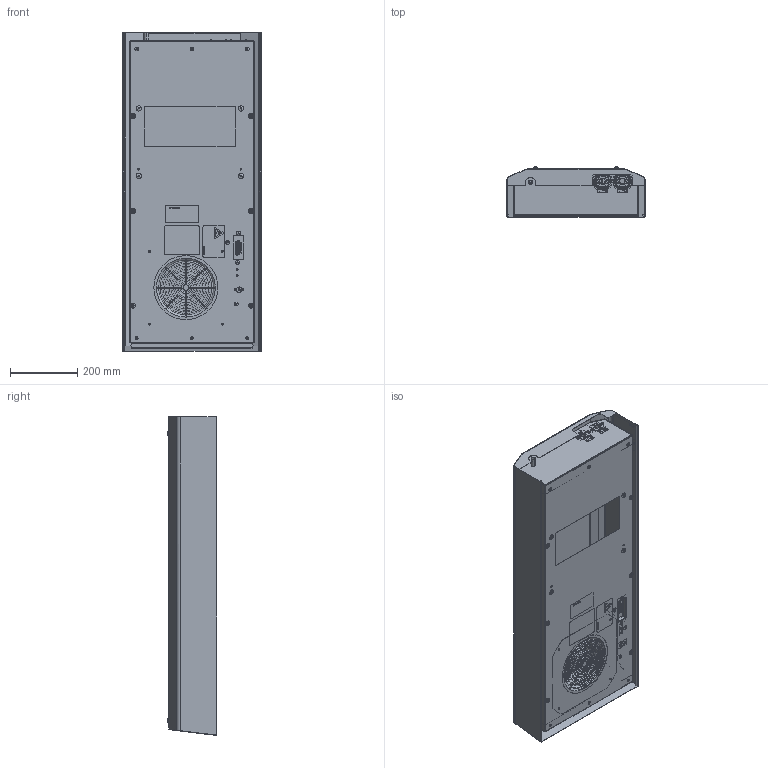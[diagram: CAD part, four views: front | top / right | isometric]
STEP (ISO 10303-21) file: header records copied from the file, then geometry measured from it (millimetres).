
FILE_DESCRIPTION (( 'STEP AP214' ), '1' );
FILE_NAME ('PWS 6152_6302 C_.STEP', '2014-05-15T12:35:01', ( '' ), ( '' ), 'SwSTEP 2.0', 'SolidWorks 2012', '' );
FILE_SCHEMA (( 'AUTOMOTIVE_DESIGN' ));
Length unit declared in the file: millimetre
Products named in the file (1): PWS 6152_6302 C_
Bounding box: 410.11 x 147.44 x 945.84 mm (x, y, z)
Volume: 3822180 mm3; surface area: 3476545.7 mm2
Topology: 122 solids, 123 shells, 5563 faces, 14132 edges, 8909 vertices
Faces by surface type: plane 3092, cylinder 1043, cone 481, bspline 468, torus 299, sphere 180
Entity records: 257599 total; most frequent: CARTESIAN_POINT 64065, ORIENTED_EDGE 27920, DIRECTION 25732, EDGE_CURVE 13960, VERTEX_POINT 8831, AXIS2_PLACEMENT_3D 8810, LINE 8112, VECTOR 8112
